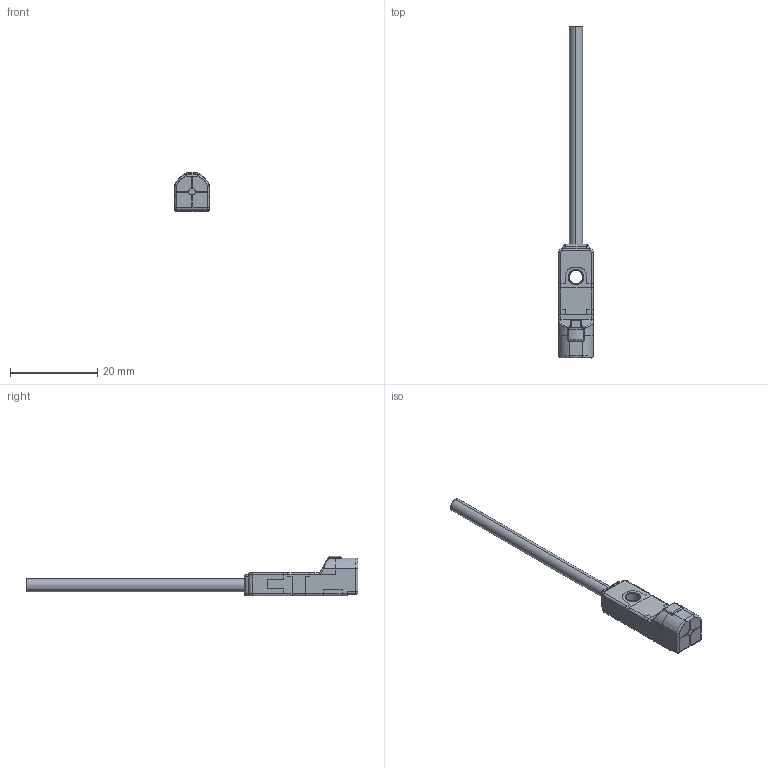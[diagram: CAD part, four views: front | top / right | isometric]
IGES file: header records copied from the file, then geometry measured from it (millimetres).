
Start section: SolidWorks IGES file using analytic representation for surfaces
Bounding box: 7.9 x 76 x 9.05 mm (x, y, z)
Surface area: 2571 mm2 (no closed solid volume)
Topology: 0 solids, 0 shells, 555 faces, 3842 edges, 3802 vertices
Faces by surface type: bspline 409, revolution 146
